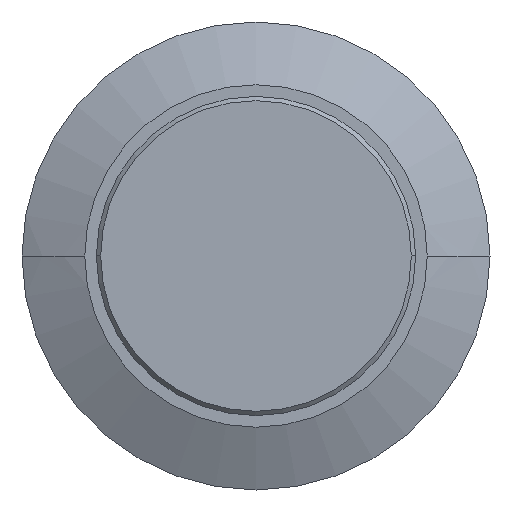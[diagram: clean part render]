
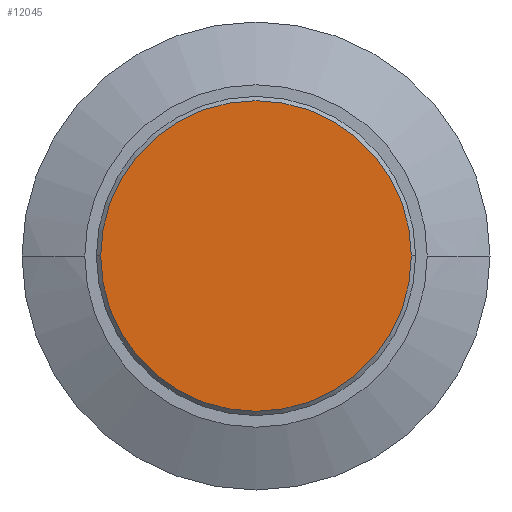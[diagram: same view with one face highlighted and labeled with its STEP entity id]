
A CAD part, left-side view. The second image highlights one B-rep face of the part: STEP entity #12045.
In plain terms, the highlighted planar face has unit normal (-1, 0, 0).
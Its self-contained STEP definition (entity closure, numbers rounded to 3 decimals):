
#11998=CARTESIAN_POINT('',(-0.08,11.,-11.006));
#11999=DIRECTION('',(1.,0.,0.));
#12000=DIRECTION('',(0.,-1.,0.));
#12001=AXIS2_PLACEMENT_3D('',#11998,#11999,#12000);
#12003=CARTESIAN_POINT('',(-0.08,11.,-11.006));
#12004=DIRECTION('',(1.,0.,0.));
#12005=DIRECTION('',(0.,1.,0.));
#12006=AXIS2_PLACEMENT_3D('',#12003,#12004,#12005);
#12030=CARTESIAN_POINT('',(-0.08,3.7,-11.006));
#12031=CARTESIAN_POINT('',(-0.08,18.3,-11.006));
#12032=VERTEX_POINT('',#12030);
#12033=VERTEX_POINT('',#12031);
#12034=CARTESIAN_POINT('',(-0.08,11.,-11.006));
#12035=DIRECTION('',(1.,0.,0.));
#12036=DIRECTION('',(0.,-1.,0.));
#12037=AXIS2_PLACEMENT_3D('',#12034,#12035,#12036);
#12038=PLANE('',#12037);
#12040=ORIENTED_EDGE('',*,*,#12039,.T.);
#12042=ORIENTED_EDGE('',*,*,#12041,.T.);
#12043=EDGE_LOOP('',(#12040,#12042));
#12044=FACE_OUTER_BOUND('',#12043,.F.);
#12002=CIRCLE('',#12001,7.3);
#12007=CIRCLE('',#12006,7.3);
#12039=EDGE_CURVE('',#12032,#12033,#12002,.T.);
#12041=EDGE_CURVE('',#12033,#12032,#12007,.T.);
#12045=ADVANCED_FACE('',(#12044),#12038,.F.);
